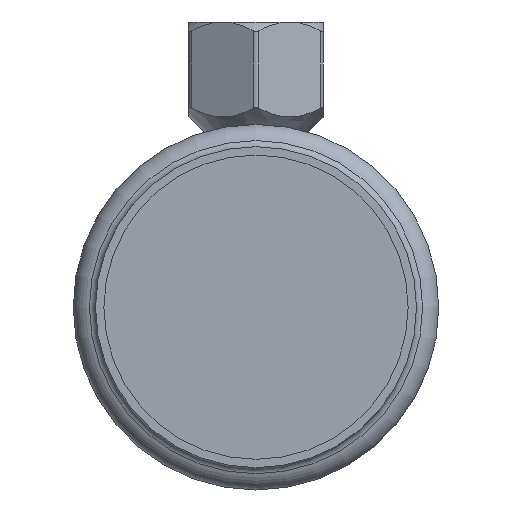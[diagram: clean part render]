
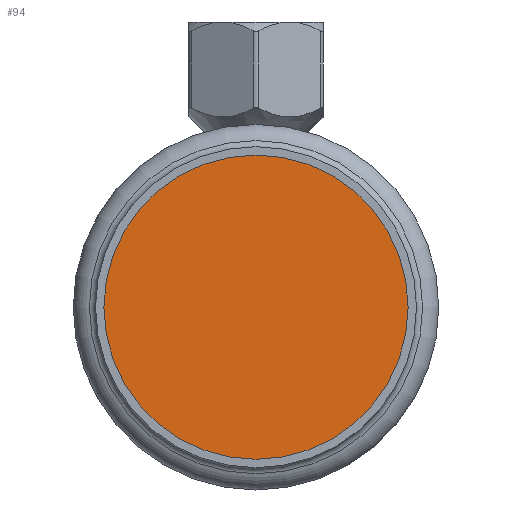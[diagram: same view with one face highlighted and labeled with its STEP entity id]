
A CAD part, front view. The second image highlights one B-rep face of the part: STEP entity #94.
In plain terms, the highlighted planar face has unit normal (0, -1, 0).
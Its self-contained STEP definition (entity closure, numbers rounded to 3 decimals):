
#94=ADVANCED_FACE('',(#429),#431,.T.);
#429=FACE_BOUND('',#430,.T.);
#430=EDGE_LOOP('',(#589));
#431=PLANE('',#432);
#432=AXIS2_PLACEMENT_3D('',#433,#434,#435);
#433=CARTESIAN_POINT('',(0.,-67.792,0.));
#434=DIRECTION('',(0.,-1.,0.));
#435=DIRECTION('',(0.,0.,-1.));
#589=ORIENTED_EDGE('',*,*,#663,.T.);
#663=EDGE_CURVE('',#791,#791,#792,.F.);
#791=VERTEX_POINT('',#2346);
#792=CIRCLE('',#2347,27.2);
#2346=CARTESIAN_POINT('',(0.,-67.792,27.2));
#2347=AXIS2_PLACEMENT_3D('',#2348,#2349,#2350);
#2348=CARTESIAN_POINT('',(0.,-67.792,0.));
#2349=DIRECTION('',(0.,1.,0.));
#2350=DIRECTION('',(0.,0.,1.));
